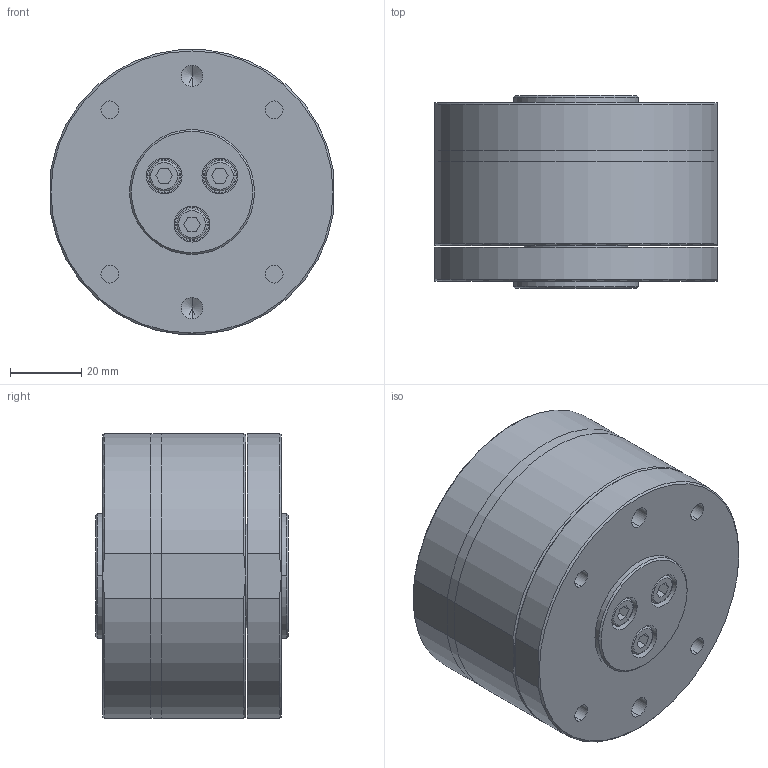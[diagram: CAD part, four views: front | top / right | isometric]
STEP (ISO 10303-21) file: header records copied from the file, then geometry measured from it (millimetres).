
FILE_DESCRIPTION (( 'STEP AP203' ), '1' );
FILE_NAME ('FCD-20RC-2T-DDM.STEP', '2022-07-26T00:10:37', ( '' ), ( '' ), 'SwSTEP 2.0', 'SolidWorks 2021', '' );
FILE_SCHEMA (( 'CONFIG_CONTROL_DESIGN' ));
Length unit declared in the file: millimetre
Products named in the file (1): FCD-20RC-2T-DDM
Bounding box: 79 x 54 x 79.72 mm (x, y, z)
Volume: 249231.4 mm3; surface area: 54954.7 mm2
Topology: 3 solids, 3 shells, 200 faces, 456 edges, 285 vertices
Faces by surface type: plane 84, cylinder 74, cone 28, torus 14
Entity records: 5685 total; most frequent: DIRECTION 1030, CARTESIAN_POINT 968, ORIENTED_EDGE 892, EDGE_CURVE 446, AXIS2_PLACEMENT_3D 395, VERTEX_POINT 285, EDGE_LOOP 249, VECTOR 240
